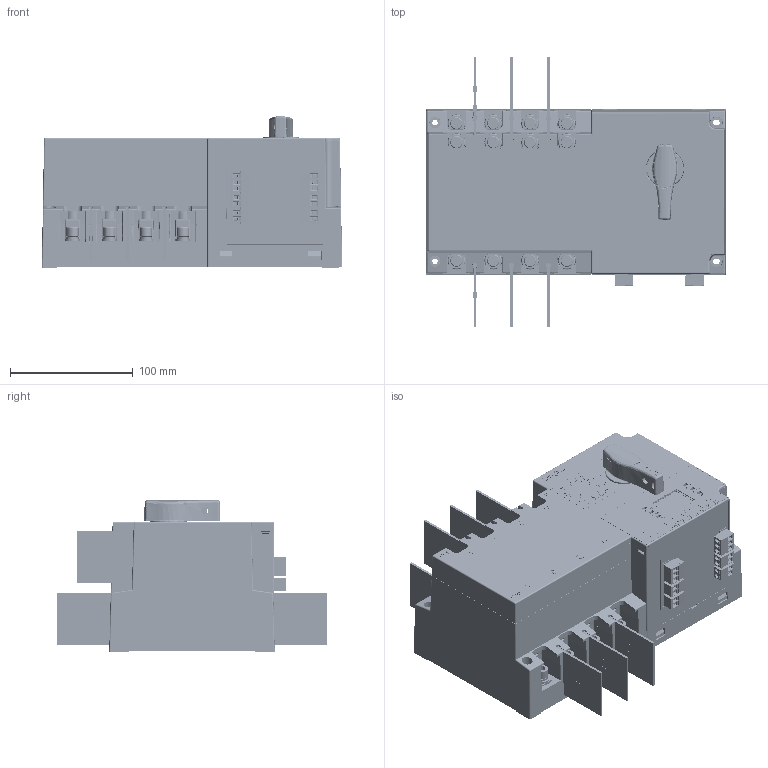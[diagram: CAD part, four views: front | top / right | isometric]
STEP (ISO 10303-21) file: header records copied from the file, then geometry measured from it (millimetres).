
FILE_DESCRIPTION (( 'STEP AP214' ), '1' );
FILE_NAME ('NDQ2A-125珘儒倰4P.STEP', '2021-08-26T06:07:43', ( 'User' ), ( 'China' ), 'SwSTEP 2.0', 'SolidWorks 2021', '' );
FILE_SCHEMA (( 'AUTOMOTIVE_DESIGN' ));
Length unit declared in the file: millimetre
Products named in the file (142): 坶諶; 备用出线触头组件; 电容1; 梓齪 1; 常用进线触头组件; 2EDG-2P眻褐脣釱; M6x10囀鞠褒蹟佪.SLDPRT; 埴攫穩隊; 2EDG-3P脣芛裔; M3X6蹟隊_GB_CROSS_SCREWS_TYPE135 M3X6-N; 粟菜4_GB_FASTENER_WASHER_SSWL 4; 芧謫3; 峚雄階啣; 悵玸佪縐え; 萇儂盓殤; 689Z 粣創_JIS B 1512-1 - 289 - B,14,DE,AC,14_68; 2EDG-2P脣芛; 蛌攫R; 芧謫芢啣; 諷秶醱裔2SLDPRT; 羲壽醱裔1; 萇儂; hex nuts, style 1-grades ab gb_GB_FASTENER_NUT_SNAB1 M4-N; 掘蚚萇埭揖芛; 儂凳菁釱3; 2EDG-3P眻褐韁宒傷赽; 揣夔儂凳芧謫; 曹揤ん; 2EDG-2P眻褐韁宒傷赽; 粒欴諉盄傷赽; 2-10俔褐齬渀; M6鞠褒楊擘醱蹟譫_GB_HEXAGON_TYPE12 M6-N; 橈埽菜え; 悵玸佪裔; 悵玸佪郪; 蟀裝; 2EDG-脣芛郋; 羲壽揤啣; 蛌諉啣珘儒; 125蛌璃1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
Assembly tree (370 placements, depth 6):
  NDQ2A-125珘儒倰4P
    都蚚菁釱
    常用进线触头组件  x4
      掘蚚萇埭揖芛
      鏢說掑え
      M6鞠褒楊擘醱蹟譫_GB_HEXAGON_TYPE12 M6-N
      GB6170 M3_GB_FASTENER_NUT_SNAB1 M3-N
    常用出线触头组件  x5
      蛹婥揖芛
      M6-16囀鞠褒郪磁蹟隊
        6mm粟菜_GB_FASTENER_WASHER_SW 6
        6mm平垫_GB_FASTENER_WASHER_SMWC 6
        M6鞠褒楊擘醱蹟譫_GB_HEXAGON_TYPE12 M6-N
      鏢說掑え
      M6鞠褒楊擘醱蹟譫_GB_HEXAGON_TYPE12 M6-N
      hex nuts, style 1-grades ab gb_GB_FASTENER_NUT_SNAB1 M4-N
    都蚚羲壽裔啣2
    125雄揖芛  x14
      125雄揖芛盓殤1
      125揖芛粟銅盓殤
      125蛌璃1
      125雄揖芛
      揖芛揤銅
    都蚚揣夔儂凳
      儂凳囀盓殤
      粟銅絳翐  x2
      儂凳揤坫粟銅  x2
      粟銅蛌璃
      儂凳俋盓殤
      傻粣  x2
      酗粣  x2
      都蚚儂凳褲极
      揣夔儂凳芧謫
        芧謫3
        689Z 粣創_JIS B 1512-1 - 289 - B,14,DE,AC,14_68
        芧謫芢啣
        芧謫揤銅  x2
    蛌攫N
      蛌諉埴攫_1  x2
      埴攫穩隊  x2
      埴攫酗穩隊  x2
      羞諳蛌啣
    蟀裝  x4
    常用开关压板组件
      羲壽揤啣
      峚雄羲壽6_2  x4
      M3X6蹟隊_GB_CROSS_SCREWS_TYPE135 M3X6-N  x4
      M2.5X8_GB_CROSS_SCREWS_TYPE1 M2.5X10-10  H type-N  x8
    峚雄階啣  x2
    掘蚚羲壽菁釱1
    备用出线触头组件  x4
      噙揖芛
      鏢說掑え
    备用进线触头组件  x4
      都蚚萇埭揖芛
      M6-16囀鞠褒郪磁蹟隊
        6mm粟菜_GB_FASTENER_WASHER_SW 6
        6mm平垫_GB_FASTENER_WASHER_SMWC 6
        M6鞠褒楊擘醱蹟譫_GB_HEXAGON_TYPE12 M6-N
      鏢說掑え
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Bounding box: 245.02 x 220 x 123.7 mm (x, y, z)
Volume: 1666880.2 mm3; surface area: 1307841.4 mm2
Topology: 584 solids, 590 shells, 43017 faces, 113749 edges, 73085 vertices
Faces by surface type: plane 24867, cylinder 10882, bspline 3627, cone 2285, torus 731, sphere 625
Entity records: 1068584 total; most frequent: CARTESIAN_POINT 392833, ORIENTED_EDGE 143328, DIRECTION 116028, EDGE_CURVE 71664, VECTOR 48820, LINE 48820, VERTEX_POINT 46705, AXIS2_PLACEMENT_3D 33604
